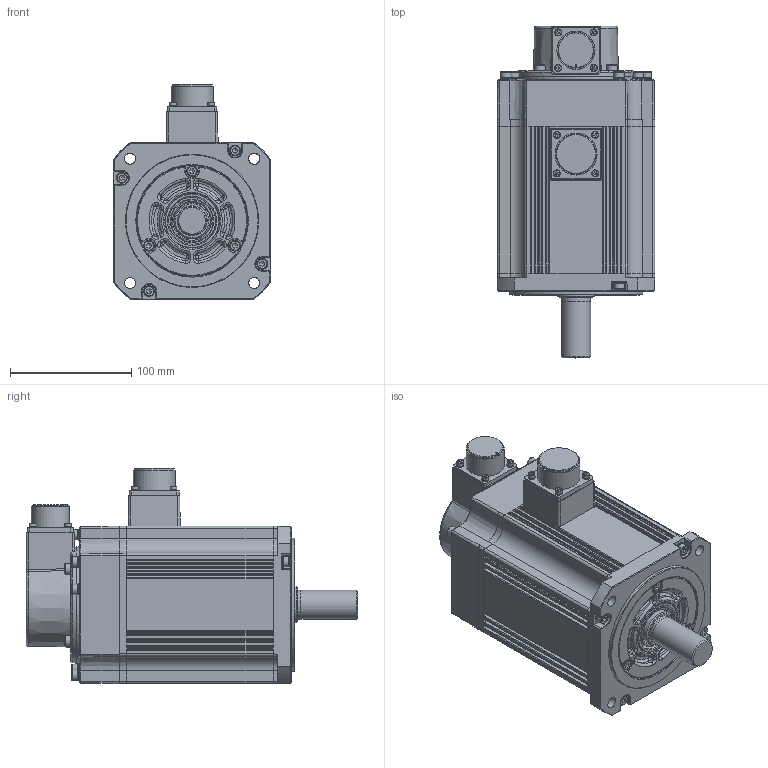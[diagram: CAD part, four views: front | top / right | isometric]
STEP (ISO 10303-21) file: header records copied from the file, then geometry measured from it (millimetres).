
FILE_DESCRIPTION((''),'2;1');
FILE_NAME('C:\Documents and Settings\11644\桌面\SME-L300B.stp','2016-07-15T19:46:20',('11644'),(''),'Autodesk Inventor 2008','Autodesk Inventor 2008','');
FILE_SCHEMA(('AUTOMOTIVE_DESIGN { 1 0 10303 214 1 1 1 1 }'));
Length unit declared in the file: millimetre
Products named in the file (2): SME-L300B; SME-L300B_70
Assembly tree (1 placements, depth 2):
  SME-L300B
    SME-L300B_70
Bounding box: 130.1 x 273.9 x 177.8 mm (x, y, z)
Volume: 2952881.7 mm3; surface area: 183925.1 mm2
Topology: 1 solids, 1 shells, 1071 faces, 2642 edges, 1641 vertices
Faces by surface type: plane 486, cylinder 309, torus 118, cone 84, bspline 66, sphere 8
Full cylindrical faces by diameter (mm): 5.5 x8, 5.82 x8, 8.5 x18, 8.97 x14, 23.8 x1, 24 x1, 29.5 x1, 30 x1, 31.5 x1, 33 x1, 34.7 x1, 35.319 x1, 40.504 x1, 45 x1, 92 x1, 95.8 x1, 110 x1
Entity records: 33950 total; most frequent: CARTESIAN_POINT 8839, DIRECTION 5009, ORIENTED_EDGE 4750, EDGE_CURVE 2375, AXIS2_PLACEMENT_3D 1898, VERTEX_POINT 1556, EDGE_LOOP 1329, VECTOR 1213
